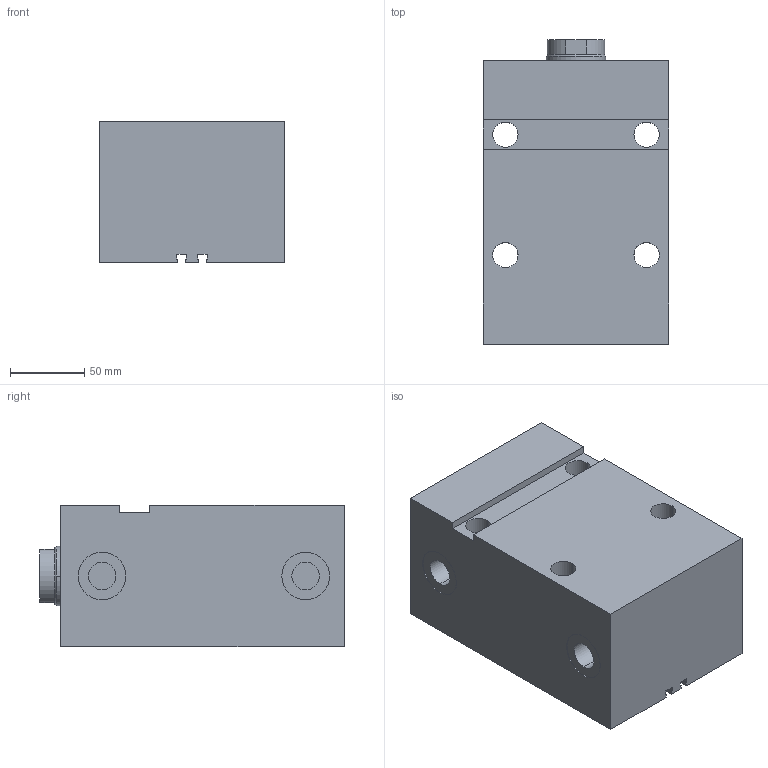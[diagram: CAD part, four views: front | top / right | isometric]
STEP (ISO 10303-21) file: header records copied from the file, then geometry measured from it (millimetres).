
FILE_DESCRIPTION (( 'STEP AP203' ), '1' );
FILE_NAME ('GERMA_Blockzylinder_702-063-100.STEP', '2016-07-26T09:32:01', ( '' ), ( '' ), 'SwSTEP 2.0', 'SolidWorks 2015', '' );
FILE_SCHEMA (( 'CONFIG_CONTROL_DESIGN' ));
Length unit declared in the file: millimetre
Products named in the file (3): GERMA_Blockzylinder_702-063-100; GH-700-063_GH-702-063-100; Kolben_MT 70x-063_Kolben_MT DU.63-Hub100-IG
Assembly tree (2 placements, depth 2):
  GERMA_Blockzylinder_702-063-100
    GH-700-063_GH-702-063-100
    Kolben_MT 70x-063_Kolben_MT DU.63-Hub100-IG
Bounding box: 125 x 205 x 95 mm (x, y, z)
Volume: 1955097.2 mm3; surface area: 205769.5 mm2
Topology: 2 solids, 2 shells, 96 faces, 226 edges, 142 vertices
Faces by surface type: plane 43, cylinder 39, cone 14
Entity records: 3042 total; most frequent: DIRECTION 511, CARTESIAN_POINT 463, ORIENTED_EDGE 440, EDGE_CURVE 220, AXIS2_PLACEMENT_3D 190, VERTEX_POINT 142, VECTOR 131, LINE 131
